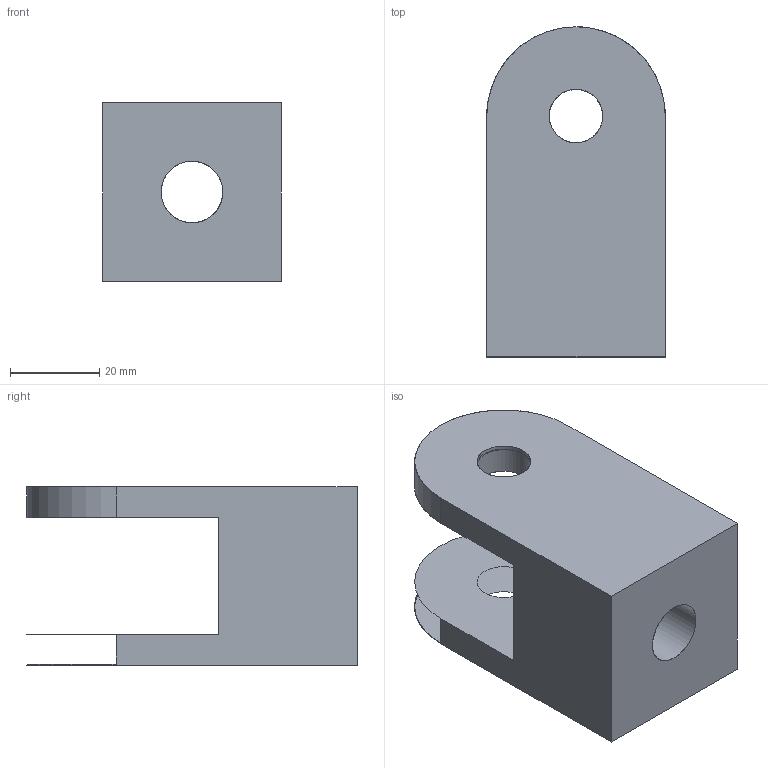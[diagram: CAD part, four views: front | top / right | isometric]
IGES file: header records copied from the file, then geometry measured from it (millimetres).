
Start section: File produced by SOLID-CONCEP (Trim Surfaces - Entity 144)
Global section: file name: 40.igs; native system: SOLID-CONCEPT V.5.xx; preprocessor: SOLID-CONCEPT-IGES-OUT v2.00; date: 100220.125924; units: millimetre
Bounding box: 40 x 74 x 40 mm (x, y, z)
Surface area: 15739.5 mm2 (no closed solid volume)
Topology: 0 solids, 0 shells, 13 faces, 88 edges, 82 vertices
Faces by surface type: bspline 8, revolution 5
